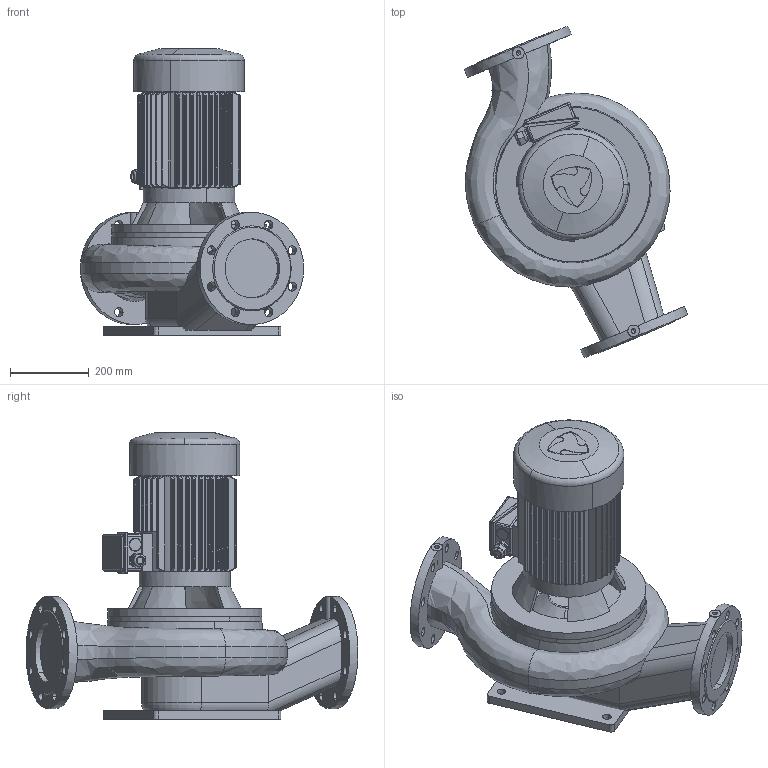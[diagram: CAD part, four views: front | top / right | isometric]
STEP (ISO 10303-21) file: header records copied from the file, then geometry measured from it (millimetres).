
FILE_DESCRIPTION(('STEP AP214'),'1');
FILE_NAME('export.stp','2018-05-28T12:04:23',(' '),(' '),'Spatial InterOp 3D',' ',' ');
FILE_SCHEMA(('AUTOMOTIVE_DESIGN { 1 0 10303 214 1 1 1 1 }'));
Length unit declared in the file: millimetre
Products named in the file (11): W_ALP11534550KP13; V_TLL100SAL1202; V_PPALP1153; PPALP1153_Kesken; Tukijalka_ALP1128; V_MOKN133; RU_OKN_133; TSUOJA_OKN_132_133; KYTKOTELO_OKN_100_133; V_MKP133-G2-F31; V_EKF31OKN132133
Assembly tree (10 placements, depth 4):
  W_ALP11534550KP13
    V_TLL100SAL1202
    V_PPALP1153
      PPALP1153_Kesken
      Tukijalka_ALP1128
    V_MKP133-G2-F31
      V_MOKN133
        RU_OKN_133
        TSUOJA_OKN_132_133
        KYTKOTELO_OKN_100_133
      V_EKF31OKN132133
Bounding box: 567.4 x 842.61 x 728 mm (x, y, z)
Volume: 60817157.5 mm3; surface area: 2886106.3 mm2
Topology: 7 solids, 8 shells, 687 faces, 1751 edges, 1087 vertices
Faces by surface type: cylinder 312, plane 237, cone 94, sphere 18, bspline 14, torus 12
Entity records: 37006 total; most frequent: CARTESIAN_POINT 8261, ORIENTED_EDGE 3458, DIRECTION 3313, STYLED_ITEM 2095, PRESENTATION_STYLE_ASSIGNMENT 2095, COLOUR_RGB 2095, EDGE_CURVE 1729, CURVE_STYLE 1401
